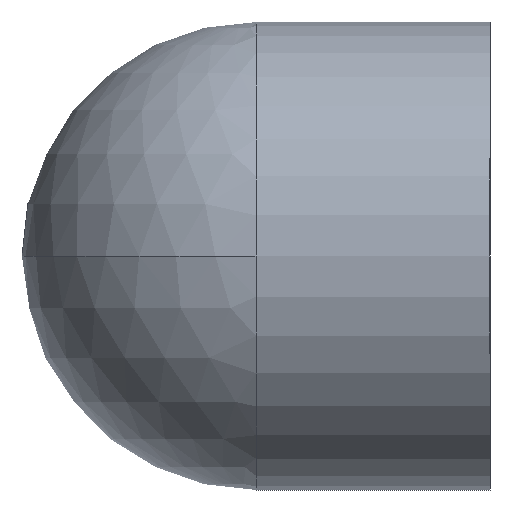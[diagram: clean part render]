
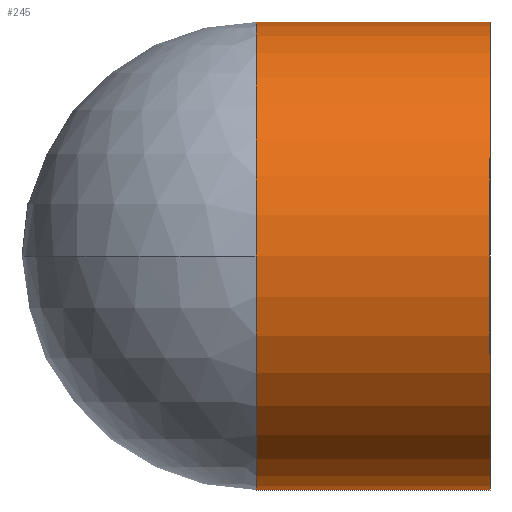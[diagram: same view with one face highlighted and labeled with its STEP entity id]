
A CAD part, left-side view. The second image highlights one B-rep face of the part: STEP entity #245.
In plain terms, the highlighted cylindrical face has radius 50.8 mm (diameter 101.6 mm), a partial arc.
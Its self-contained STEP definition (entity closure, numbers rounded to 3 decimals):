
#7 = ORIENTED_EDGE ( 'NONE', *, *, #123, .T. ) ;
#18 = DIRECTION ( 'NONE',  ( 0., 0., -1. ) ) ;
#20 = VERTEX_POINT ( 'NONE', #234 ) ;
#29 = EDGE_CURVE ( 'NONE', #20, #231, #212, .T. ) ;
#41 = EDGE_CURVE ( 'NONE', #45, #204, #196, .T. ) ;
#45 = VERTEX_POINT ( 'NONE', #278 ) ;
#56 = DIRECTION ( 'NONE',  ( 0., -1., 0. ) ) ;
#57 = DIRECTION ( 'NONE',  ( 0., -1., 0. ) ) ;
#62 = CIRCLE ( 'NONE', #201, 50.8 ) ;
#65 = CARTESIAN_POINT ( 'NONE',  ( 25.4, -12.7, -50.8 ) ) ;
#87 = VECTOR ( 'NONE', #57, 1000. ) ;
#89 = DIRECTION ( 'NONE',  ( 0., -1., 0. ) ) ;
#94 = VECTOR ( 'NONE', #56, 1000. ) ;
#101 = AXIS2_PLACEMENT_3D ( 'NONE', #281, #122, #293 ) ;
#106 = AXIS2_PLACEMENT_3D ( 'NONE', #238, #222, #140 ) ;
#109 = AXIS2_PLACEMENT_3D ( 'NONE', #143, #89, #130 ) ;
#112 = EDGE_CURVE ( 'NONE', #45, #125, #181, .T. ) ;
#122 = DIRECTION ( 'NONE',  ( 0., -1., 0. ) ) ;
#123 = EDGE_CURVE ( 'NONE', #125, #20, #62, .T. ) ;
#125 = VERTEX_POINT ( 'NONE', #244 ) ;
#130 = DIRECTION ( 'NONE',  ( 0., 0., -1. ) ) ;
#140 = DIRECTION ( 'NONE',  ( 0., 0., -1. ) ) ;
#143 = CARTESIAN_POINT ( 'NONE',  ( 25.4, 38.1, 0. ) ) ;
#156 = ORIENTED_EDGE ( 'NONE', *, *, #178, .F. ) ;
#160 = CARTESIAN_POINT ( 'NONE',  ( 25.4, 38.1, 0. ) ) ;
#169 = EDGE_LOOP ( 'NONE', ( #300, #232, #7, #174, #156 ) ) ;
#174 = ORIENTED_EDGE ( 'NONE', *, *, #29, .T. ) ;
#178 = EDGE_CURVE ( 'NONE', #204, #231, #276, .T. ) ;
#181 = CIRCLE ( 'NONE', #109, 50.8 ) ;
#187 = CYLINDRICAL_SURFACE ( 'NONE', #106, 50.8 ) ;
#196 = LINE ( 'NONE', #205, #94 ) ;
#201 = AXIS2_PLACEMENT_3D ( 'NONE', #160, #306, #18 ) ;
#204 = VERTEX_POINT ( 'NONE', #286 ) ;
#205 = CARTESIAN_POINT ( 'NONE',  ( 25.4, 38.1, 50.8 ) ) ;
#212 = LINE ( 'NONE', #266, #87 ) ;
#222 = DIRECTION ( 'NONE',  ( 0., -1., 0. ) ) ;
#231 = VERTEX_POINT ( 'NONE', #65 ) ;
#232 = ORIENTED_EDGE ( 'NONE', *, *, #112, .T. ) ;
#234 = CARTESIAN_POINT ( 'NONE',  ( 25.4, 38.1, -50.8 ) ) ;
#238 = CARTESIAN_POINT ( 'NONE',  ( 25.4, 38.1, 0. ) ) ;
#241 = FACE_OUTER_BOUND ( 'NONE', #169, .T. ) ;
#244 = CARTESIAN_POINT ( 'NONE',  ( -25.4, 38.1, 0. ) ) ;
#245 = ADVANCED_FACE ( 'NONE', ( #241 ), #187, .T. ) ;
#266 = CARTESIAN_POINT ( 'NONE',  ( 25.4, 38.1, -50.8 ) ) ;
#276 = CIRCLE ( 'NONE', #101, 50.8 ) ;
#278 = CARTESIAN_POINT ( 'NONE',  ( 25.4, 38.1, 50.8 ) ) ;
#281 = CARTESIAN_POINT ( 'NONE',  ( 25.4, -12.7, 0. ) ) ;
#286 = CARTESIAN_POINT ( 'NONE',  ( 25.4, -12.7, 50.8 ) ) ;
#293 = DIRECTION ( 'NONE',  ( 0., 0., -1. ) ) ;
#300 = ORIENTED_EDGE ( 'NONE', *, *, #41, .F. ) ;
#306 = DIRECTION ( 'NONE',  ( 0., -1., 0. ) ) ;
